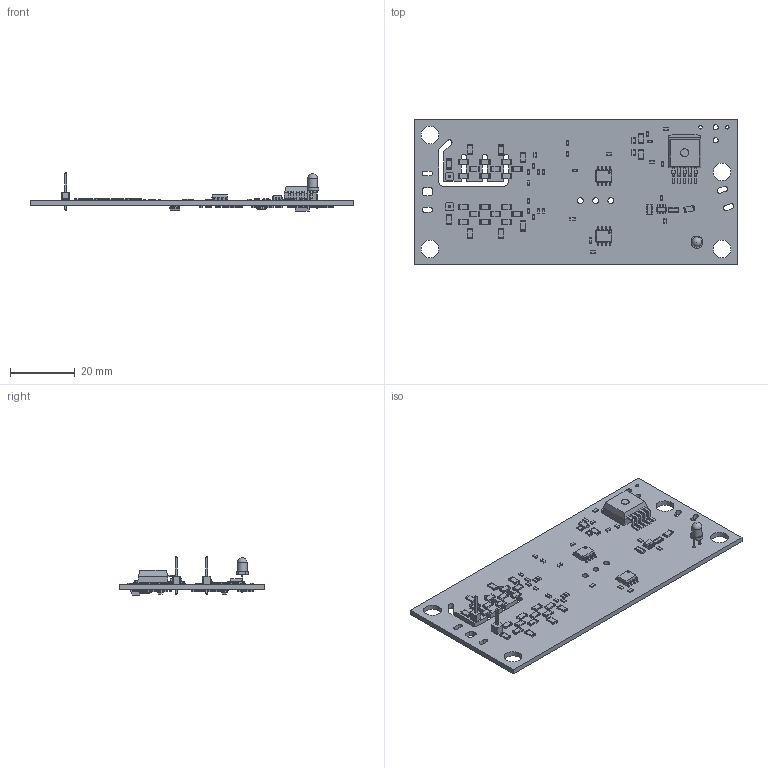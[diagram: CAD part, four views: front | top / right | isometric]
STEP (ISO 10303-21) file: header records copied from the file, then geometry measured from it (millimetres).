
FILE_DESCRIPTION(('KiCad electronic assembly'),'2;1');
FILE_NAME('Diff_Probe.step','2022-05-24T23:54:15',('An Author'),( 'A Company'),'Open CASCADE STEP processor 6.8', 'KiCad to STEP converter','Unknown');
FILE_SCHEMA(('AUTOMOTIVE_DESIGN_CC2 { 1 2 10303 214 -1 1 5 4 }'));
Length unit declared in the file: millimetre
Products named in the file (26): Open CASCADE STEP translator 6.8 1; PinHeader_1x01_P2.54mm_Vertical; SOLID; R_1206_3216Metric; R_0603_1608Metric; SOT-23; SOIC-8-1EP_3.9x4.9mm_P1.27mm_EP2.35x2.35mm; R_0805_2012Metric; SOT-89-3; R_Array_Convex_4x0603; MSOP-8_3x3mm_P0.65mm; SOT-23-6; LED_D3.0mm; TO-263-5_TabPin3; COMPOUND
Assembly tree (112 placements, depth 3):
  Open CASCADE STEP translator 6.8 1
    PinHeader_1x01_P2.54mm_Vertical  x2
      SOLID
    R_1206_3216Metric  x34
      SOLID
    R_0603_1608Metric  x48
      SOLID
    SOT-23  x2
      SOLID
    SOIC-8-1EP_3.9x4.9mm_P1.27mm_EP2.35x2.35mm  x2
      SOLID
    R_0805_2012Metric  x3
      SOLID
    SOT-89-3
      SOLID
    R_Array_Convex_4x0603  x3
      SOLID
    MSOP-8_3x3mm_P0.65mm
      SOLID
    SOT-23-6
      SOLID
    LED_D3.0mm
      SOLID
    TO-263-5_TabPin3
      SOLID
    COMPOUND
Bounding box: 100 x 45 x 11.76 mm (x, y, z)
Volume: 7554.6 mm3; surface area: 11232.5 mm2
Topology: 100 solids, 100 shells, 3891 faces, 10396 edges, 6722 vertices
Faces by surface type: plane 2618, cylinder 1092, bspline 180, sphere 1
Full cylindrical faces by diameter (mm): 0.5 x1, 0.6 x2, 0.7 x1, 0.9 x2, 1 x2, 1.6 x2, 1.8 x3, 2.5 x1, 3 x1, 5.5 x4
Entity records: 106890 total; most frequent: CARTESIAN_POINT 43169, DIRECTION 9693, LINE 6307, VECTOR 6307, ORIENTED_EDGE 5820, PCURVE 5820, DEFINITIONAL_REPRESENTATION 5820, EDGE_CURVE 2910
